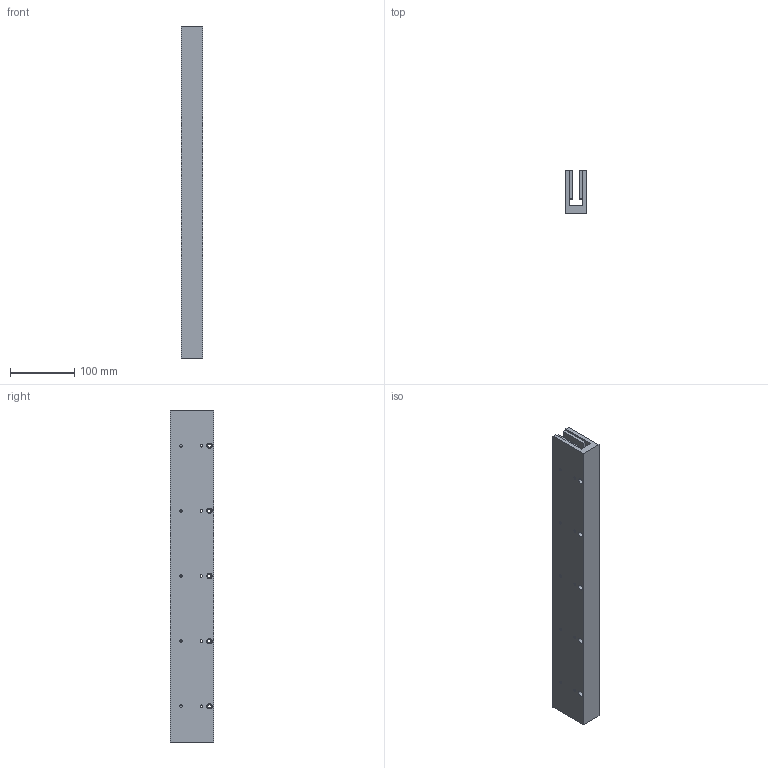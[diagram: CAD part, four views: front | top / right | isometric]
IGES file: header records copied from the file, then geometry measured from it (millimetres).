
Global section: file name: No Iges File Name specified; native system: Autodesk Inventor 2009; preprocessor: AutoDesk Inventor Iges Exporter R2009; author: je17857; date: 20091116.111502; units: inch
Bounding box: 34.29 x 67.31 x 518.16 mm (x, y, z)
Volume: 774883.6 mm3; surface area: 196183.3 mm2
Topology: 1 solids, 1 shells, 270 faces, 642 edges, 428 vertices
Faces by surface type: plane 190, bspline 80
